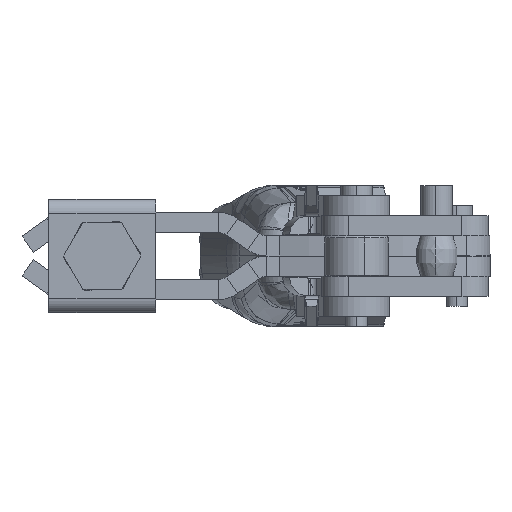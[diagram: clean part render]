
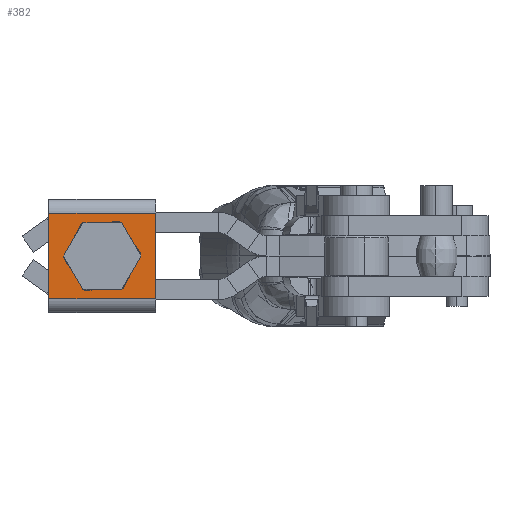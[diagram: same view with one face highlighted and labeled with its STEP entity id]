
A CAD part, front view. The second image highlights one B-rep face of the part: STEP entity #382.
In plain terms, the highlighted planar face has unit normal (0, -1, 0) as drawn and (0, 1, 0) by its records, which use the part's own axes.
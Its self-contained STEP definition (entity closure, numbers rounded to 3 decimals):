
#382 = ADVANCED_FACE ( 'NONE', ( #10439, #25393 ), #19944, .T. ) ;
#2025 = LINE ( 'NONE', #22816, #31049 ) ;
#2554 = VERTEX_POINT ( 'NONE', #7779 ) ;
#2699 = CARTESIAN_POINT ( 'NONE',  ( 0., 5., 0. ) ) ;
#2790 = VERTEX_POINT ( 'NONE', #28525 ) ;
#3126 = CARTESIAN_POINT ( 'NONE',  ( -8.5, 5., 8. ) ) ;
#4269 = VERTEX_POINT ( 'NONE', #16524 ) ;
#5559 = DIRECTION ( 'NONE',  ( 0., 0., 1. ) ) ;
#6125 = VECTOR ( 'NONE', #10212, 1000. ) ;
#6573 = DIRECTION ( 'NONE',  ( 1., 0., 0. ) ) ;
#6581 = CIRCLE ( 'NONE', #17351, 3.25 ) ;
#7170 = EDGE_CURVE ( 'NONE', #2554, #4269, #35249, .T. ) ;
#7779 = CARTESIAN_POINT ( 'NONE',  ( 0., 5., -3.25 ) ) ;
#9711 = CARTESIAN_POINT ( 'NONE',  ( 0., 5., 0. ) ) ;
#9847 = ORIENTED_EDGE ( 'NONE', *, *, #7170, .F. ) ;
#10212 = DIRECTION ( 'NONE',  ( 1., 0., 0. ) ) ;
#10439 = FACE_BOUND ( 'NONE', #23085, .T. ) ;
#11633 = DIRECTION ( 'NONE',  ( 0., 0., -1. ) ) ;
#12512 = DIRECTION ( 'NONE',  ( 0., 0., 1. ) ) ;
#14119 = VERTEX_POINT ( 'NONE', #21101 ) ;
#15369 = EDGE_CURVE ( 'NONE', #4269, #2554, #6581, .T. ) ;
#15918 = DIRECTION ( 'NONE',  ( 0., 0., -1. ) ) ;
#16524 = CARTESIAN_POINT ( 'NONE',  ( 0., 5., 3.25 ) ) ;
#17347 = EDGE_CURVE ( 'NONE', #14119, #2790, #22240, .T. ) ;
#17351 = AXIS2_PLACEMENT_3D ( 'NONE', #2699, #22341, #5559 ) ;
#17692 = EDGE_CURVE ( 'NONE', #24508, #2790, #2025, .T. ) ;
#19682 = VECTOR ( 'NONE', #15918, 1000. ) ;
#19944 = PLANE ( 'NONE',  #31882 ) ;
#21101 = CARTESIAN_POINT ( 'NONE',  ( -6.4, 5., -8. ) ) ;
#22240 = LINE ( 'NONE', #23375, #23146 ) ;
#22341 = DIRECTION ( 'NONE',  ( 0., 1., 0. ) ) ;
#22816 = CARTESIAN_POINT ( 'NONE',  ( 6.4, 5., 8. ) ) ;
#22830 = AXIS2_PLACEMENT_3D ( 'NONE', #9711, #29363, #12512 ) ;
#23085 = EDGE_LOOP ( 'NONE', ( #34644, #9847 ) ) ;
#23146 = VECTOR ( 'NONE', #6573, 1000. ) ;
#23375 = CARTESIAN_POINT ( 'NONE',  ( -8.5, 5., -8. ) ) ;
#24508 = VERTEX_POINT ( 'NONE', #25209 ) ;
#25011 = EDGE_LOOP ( 'NONE', ( #35843, #34269, #35080, #36013 ) ) ;
#25209 = CARTESIAN_POINT ( 'NONE',  ( 6.4, 5., 8. ) ) ;
#25393 = FACE_OUTER_BOUND ( 'NONE', #25011, .T. ) ;
#25834 = EDGE_CURVE ( 'NONE', #33444, #24508, #28543, .T. ) ;
#26296 = EDGE_CURVE ( 'NONE', #33444, #14119, #34703, .T. ) ;
#27072 = CARTESIAN_POINT ( 'NONE',  ( -8.5, 5., 8. ) ) ;
#28525 = CARTESIAN_POINT ( 'NONE',  ( 6.4, 5., -8. ) ) ;
#28543 = LINE ( 'NONE', #27072, #6125 ) ;
#29363 = DIRECTION ( 'NONE',  ( 0., 1., 0. ) ) ;
#31049 = VECTOR ( 'NONE', #11633, 1000. ) ;
#31275 = DIRECTION ( 'NONE',  ( 0., 0., 1. ) ) ;
#31882 = AXIS2_PLACEMENT_3D ( 'NONE', #3126, #33857, #31275 ) ;
#32779 = CARTESIAN_POINT ( 'NONE',  ( -6.4, 5., 8. ) ) ;
#33442 = CARTESIAN_POINT ( 'NONE',  ( -6.4, 5., 8. ) ) ;
#33444 = VERTEX_POINT ( 'NONE', #33442 ) ;
#33857 = DIRECTION ( 'NONE',  ( 0., 1., 0. ) ) ;
#34269 = ORIENTED_EDGE ( 'NONE', *, *, #26296, .F. ) ;
#34644 = ORIENTED_EDGE ( 'NONE', *, *, #15369, .F. ) ;
#34703 = LINE ( 'NONE', #32779, #19682 ) ;
#35080 = ORIENTED_EDGE ( 'NONE', *, *, #25834, .T. ) ;
#35249 = CIRCLE ( 'NONE', #22830, 3.25 ) ;
#35843 = ORIENTED_EDGE ( 'NONE', *, *, #17347, .F. ) ;
#36013 = ORIENTED_EDGE ( 'NONE', *, *, #17692, .T. ) ;
